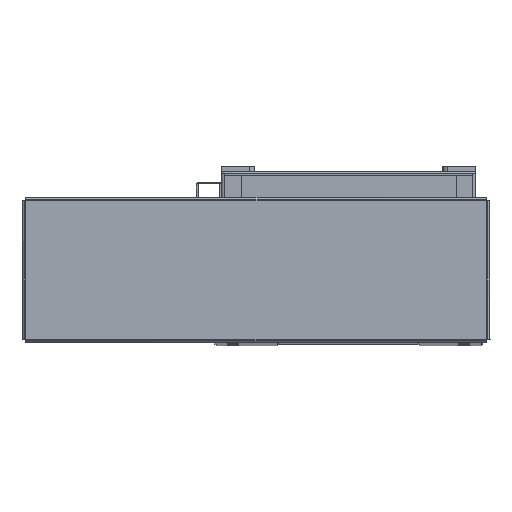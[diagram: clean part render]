
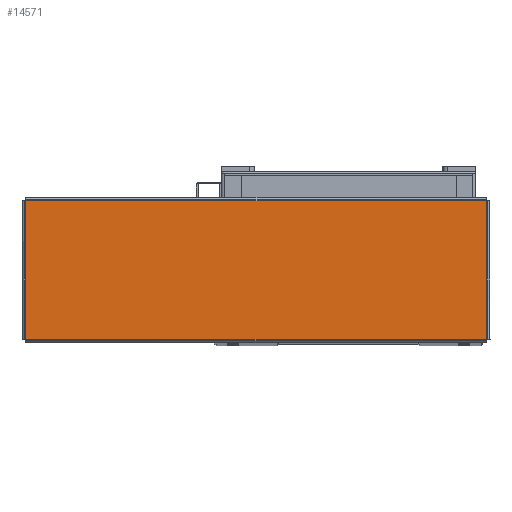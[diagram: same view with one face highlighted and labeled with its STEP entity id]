
A CAD part, top view. The second image highlights one B-rep face of the part: STEP entity #14571.
In plain terms, the highlighted planar face has unit normal (0, 0, 1) as drawn and (0, -1, 0) by its records, which use the part's own axes.
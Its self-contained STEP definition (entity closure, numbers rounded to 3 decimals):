
#12964 = CARTESIAN_POINT ( 'NONE',  ( 0., -1.5, 0. ) ) ;
#12967 = DIRECTION ( 'NONE',  ( 0., 0., 1. ) ) ;
#12972 = PLANE ( 'NONE',  #23761 ) ;
#13008 = DIRECTION ( 'NONE',  ( 0., 1., 0. ) ) ;
#14571 = ADVANCED_FACE ( 'NONE', ( #14968 ), #12972, .F. ) ;
#14968 = FACE_OUTER_BOUND ( 'NONE', #19852, .T. ) ;
#19852 = EDGE_LOOP ( 'NONE', ( #32737, #38035, #38025, #38047 ) ) ;
#23761 = AXIS2_PLACEMENT_3D ( 'NONE', #12964, #13008, #12967 ) ;
#32737 = ORIENTED_EDGE ( 'NONE', *, *, #36438, .T. ) ;
#33369 = LINE ( 'NONE', #52884, #33371 ) ;
#33371 = VECTOR ( 'NONE', #52895, 1000. ) ;
#33372 = VECTOR ( 'NONE', #52850, 1000. ) ;
#33382 = LINE ( 'NONE', #52959, #33383 ) ;
#33383 = VECTOR ( 'NONE', #52929, 1000. ) ;
#33402 = LINE ( 'NONE', #52848, #33372 ) ;
#33405 = VECTOR ( 'NONE', #52911, 1000. ) ;
#33416 = LINE ( 'NONE', #52915, #33405 ) ;
#36438 = EDGE_CURVE ( 'NONE', #45584, #45528, #33402, .T. ) ;
#36446 = EDGE_CURVE ( 'NONE', #45533, #45584, #33416, .T. ) ;
#36462 = EDGE_CURVE ( 'NONE', #45575, #45533, #33369, .T. ) ;
#36468 = EDGE_CURVE ( 'NONE', #45528, #45575, #33382, .T. ) ;
#38025 = ORIENTED_EDGE ( 'NONE', *, *, #36462, .T. ) ;
#38035 = ORIENTED_EDGE ( 'NONE', *, *, #36468, .T. ) ;
#38047 = ORIENTED_EDGE ( 'NONE', *, *, #36446, .T. ) ;
#38507 = CARTESIAN_POINT ( 'NONE',  ( 139.263, -1.5, 41.763 ) ) ;
#38526 = CARTESIAN_POINT ( 'NONE',  ( -139.263, -1.5, -41.763 ) ) ;
#38557 = CARTESIAN_POINT ( 'NONE',  ( -139.263, -1.5, 41.763 ) ) ;
#38598 = CARTESIAN_POINT ( 'NONE',  ( 139.263, -1.5, -41.763 ) ) ;
#45528 = VERTEX_POINT ( 'NONE', #38507 ) ;
#45533 = VERTEX_POINT ( 'NONE', #38526 ) ;
#45575 = VERTEX_POINT ( 'NONE', #38557 ) ;
#45584 = VERTEX_POINT ( 'NONE', #38598 ) ;
#52848 = CARTESIAN_POINT ( 'NONE',  ( 139.263, -1.5, -41.793 ) ) ;
#52850 = DIRECTION ( 'NONE',  ( 0., 0., 1. ) ) ;
#52884 = CARTESIAN_POINT ( 'NONE',  ( -139.263, -1.5, 41.793 ) ) ;
#52895 = DIRECTION ( 'NONE',  ( 0., 0., -1. ) ) ;
#52911 = DIRECTION ( 'NONE',  ( 1., 0., 0. ) ) ;
#52915 = CARTESIAN_POINT ( 'NONE',  ( -139.293, -1.5, -41.763 ) ) ;
#52929 = DIRECTION ( 'NONE',  ( -1., 0., 0. ) ) ;
#52959 = CARTESIAN_POINT ( 'NONE',  ( 139.293, -1.5, 41.763 ) ) ;
